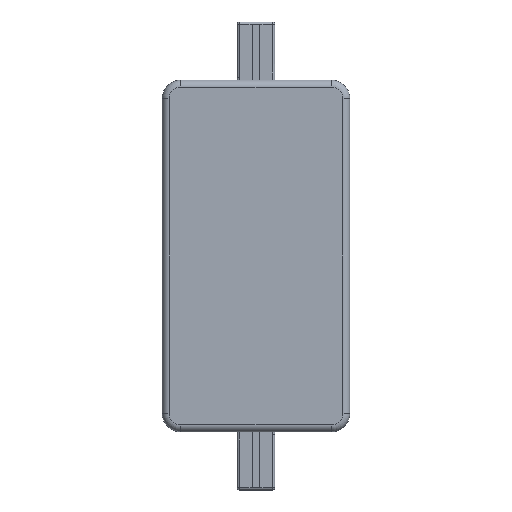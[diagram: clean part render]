
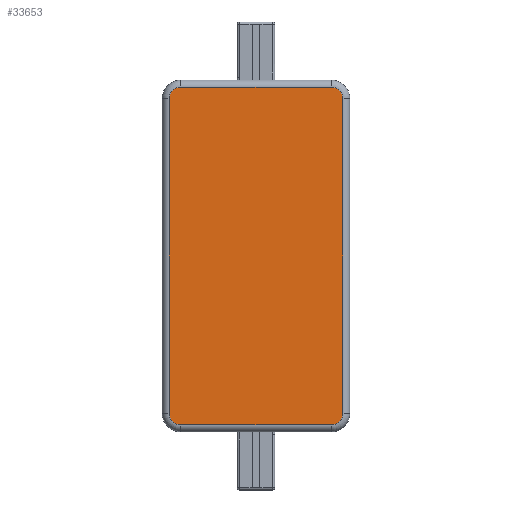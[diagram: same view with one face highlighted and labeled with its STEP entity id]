
A CAD part, front view. The second image highlights one B-rep face of the part: STEP entity #33653.
In plain terms, the highlighted planar face has unit normal (0, -1, 0) as drawn and (0, 1, 0) by its records, which use the part's own axes.
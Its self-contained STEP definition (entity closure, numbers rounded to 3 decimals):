
#33339=CARTESIAN_POINT('',(37.,0.0,67.0));
#33340=VERTEX_POINT('',#33339);
#33348=CARTESIAN_POINT('',(32.,0.0,72.0));
#33349=VERTEX_POINT('',#33348);
#33350=CARTESIAN_POINT('',(32.,0.0,67.0));
#33351=DIRECTION('',(0.0,-1.0,0.0));
#33352=DIRECTION('',(0.707,0.0,0.707));
#33353=AXIS2_PLACEMENT_3D('',#33350,#33351,#33352);
#33354=CIRCLE('',#33353,5.);
#33355=EDGE_CURVE('',#33340,#33349,#33354,.T.);
#33381=CARTESIAN_POINT('',(-32.,0.0,72.0));
#33382=VERTEX_POINT('',#33381);
#33399=CARTESIAN_POINT('',(32.,0.0,72.0));
#33400=DIRECTION('',(-1.0,0.0,0.0));
#33401=VECTOR('',#33400,64.);
#33402=LINE('',#33399,#33401);
#33403=EDGE_CURVE('',#33349,#33382,#33402,.T.);
#33413=CARTESIAN_POINT('',(-37.0,0.0,67.0));
#33414=VERTEX_POINT('',#33413);
#33432=CARTESIAN_POINT('',(-32.0,0.0,67.0));
#33433=DIRECTION('',(0.0,-1.0,0.0));
#33434=DIRECTION('',(-0.707,0.0,0.707));
#33435=AXIS2_PLACEMENT_3D('',#33432,#33433,#33434);
#33436=CIRCLE('',#33435,5.0);
#33437=EDGE_CURVE('',#33382,#33414,#33436,.T.);
#33447=CARTESIAN_POINT('',(-37.0,0.0,-67.0));
#33448=VERTEX_POINT('',#33447);
#33465=CARTESIAN_POINT('',(-37.0,0.0,67.0));
#33466=DIRECTION('',(0.0,0.0,-1.0));
#33467=VECTOR('',#33466,134.0);
#33468=LINE('',#33465,#33467);
#33469=EDGE_CURVE('',#33414,#33448,#33468,.T.);
#33479=CARTESIAN_POINT('',(-32.0,0.0,-72.0));
#33480=VERTEX_POINT('',#33479);
#33496=CARTESIAN_POINT('',(-32.0,0.0,-67.0));
#33497=DIRECTION('',(0.0,-1.0,0.0));
#33498=DIRECTION('',(-0.707,0.0,-0.707));
#33499=AXIS2_PLACEMENT_3D('',#33496,#33497,#33498);
#33500=CIRCLE('',#33499,5.0);
#33501=EDGE_CURVE('',#33448,#33480,#33500,.T.);
#33511=CARTESIAN_POINT('',(32.,0.0,-72.0));
#33512=VERTEX_POINT('',#33511);
#33522=CARTESIAN_POINT('',(-32.0,0.0,-72.0));
#33523=DIRECTION('',(1.0,0.0,0.0));
#33524=VECTOR('',#33523,64.);
#33525=LINE('',#33522,#33524);
#33526=EDGE_CURVE('',#33480,#33512,#33525,.T.);
#33536=CARTESIAN_POINT('',(37.,0.0,-67.0));
#33537=VERTEX_POINT('',#33536);
#33555=CARTESIAN_POINT('',(32.,0.0,-67.0));
#33556=DIRECTION('',(0.0,-1.0,0.0));
#33557=DIRECTION('',(0.707,0.0,-0.707));
#33558=AXIS2_PLACEMENT_3D('',#33555,#33556,#33557);
#33559=CIRCLE('',#33558,5.);
#33560=EDGE_CURVE('',#33512,#33537,#33559,.T.);
#33578=CARTESIAN_POINT('',(37.,0.0,-67.0));
#33579=DIRECTION('',(0.0,0.0,1.0));
#33580=VECTOR('',#33579,134.0);
#33581=LINE('',#33578,#33580);
#33582=EDGE_CURVE('',#33537,#33340,#33581,.T.);
#33638=CARTESIAN_POINT('',(0.,0.0,0.0));
#33639=DIRECTION('',(0.0,1.0,0.0));
#33640=DIRECTION('',(0.0,0.0,1.0));
#33641=AXIS2_PLACEMENT_3D('',#33638,#33639,#33640);
#33642=PLANE('',#33641);
#33643=ORIENTED_EDGE('',*,*,#33355,.F.);
#33644=ORIENTED_EDGE('',*,*,#33582,.F.);
#33645=ORIENTED_EDGE('',*,*,#33560,.F.);
#33646=ORIENTED_EDGE('',*,*,#33526,.F.);
#33647=ORIENTED_EDGE('',*,*,#33501,.F.);
#33648=ORIENTED_EDGE('',*,*,#33469,.F.);
#33649=ORIENTED_EDGE('',*,*,#33437,.F.);
#33650=ORIENTED_EDGE('',*,*,#33403,.F.);
#33651=EDGE_LOOP('',(#33643,#33644,#33645,#33646,#33647,#33648,#33649,#33650));
#33652=FACE_OUTER_BOUND('',#33651,.T.);
#33653=ADVANCED_FACE('',(#33652),#33642,.T.);
